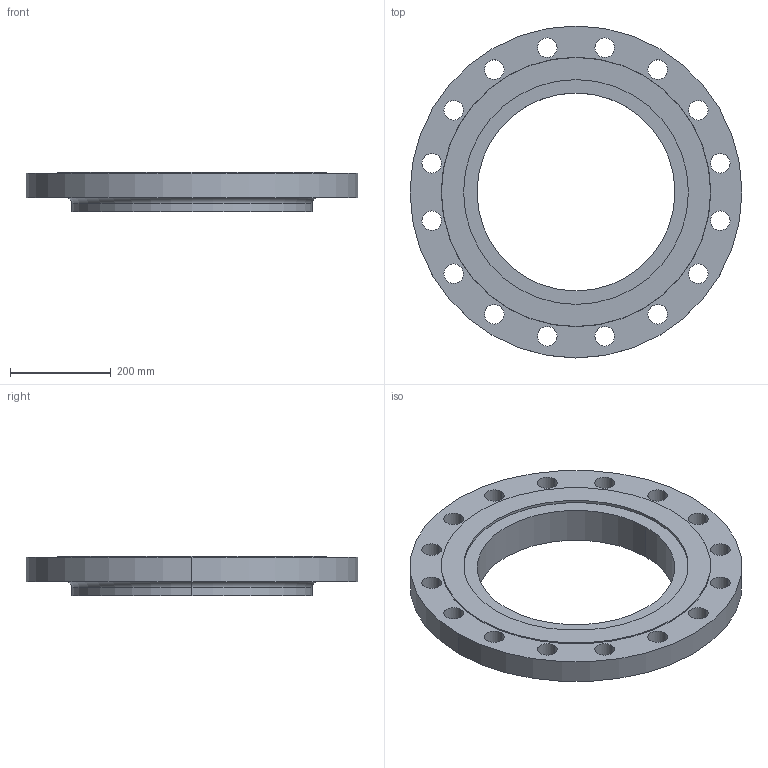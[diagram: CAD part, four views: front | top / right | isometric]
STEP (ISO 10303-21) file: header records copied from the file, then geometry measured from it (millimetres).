
FILE_DESCRIPTION (( 'STEP AP214' ), '1' );
FILE_NAME ('PN40 DN400 Type 13 - Type G Face.STEP', '2019-01-05T23:14:59', ( '' ), ( '' ), 'SwSTEP 2.0', 'SolidWorks 2019', '' );
FILE_SCHEMA (( 'AUTOMOTIVE_DESIGN' ));
Length unit declared in the file: millimetre
Products named in the file (1): PN40 DN400 Type 13 - Type G Face
Bounding box: 660 x 660 x 78 mm (x, y, z)
Volume: 11345767.3 mm3; surface area: 730952.6 mm2
Topology: 1 solids, 1 shells, 49 faces, 130 edges, 86 vertices
Faces by surface type: cylinder 40, plane 5, torus 2, cone 2
Entity records: 1678 total; most frequent: DIRECTION 318, CARTESIAN_POINT 266, ORIENTED_EDGE 260, AXIS2_PLACEMENT_3D 138, EDGE_CURVE 130, CIRCLE 88, EDGE_LOOP 86, VERTEX_POINT 86
